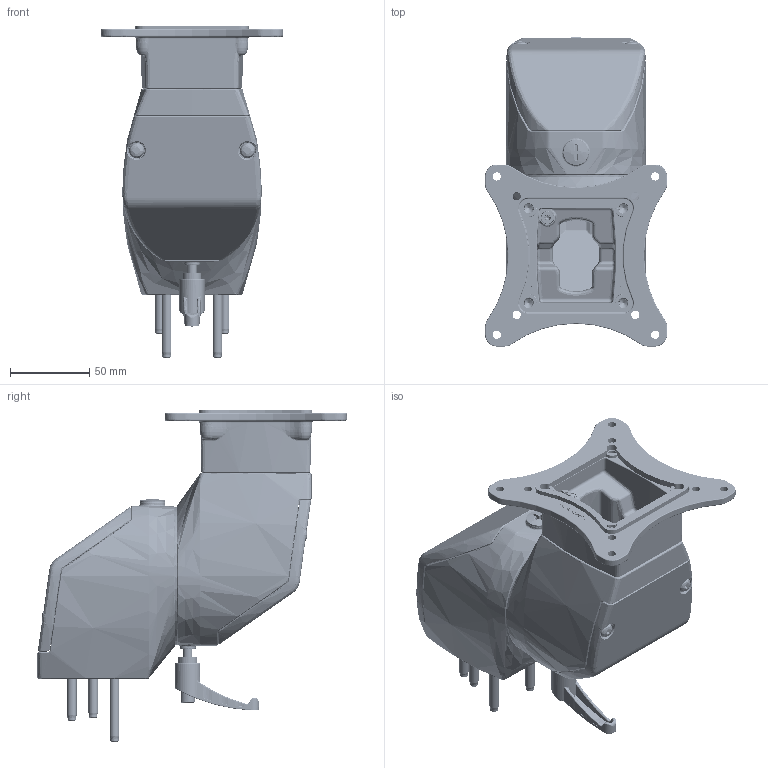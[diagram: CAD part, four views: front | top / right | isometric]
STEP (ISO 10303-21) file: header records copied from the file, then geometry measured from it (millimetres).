
FILE_DESCRIPTION((''),'2;1');
FILE_NAME('1015500013_ASM','2025-07-22T10:44:10',('Falk.Schoember'),(''),'CREO PARAMETRIC BY PTC INC, 2022124','CREO PARAMETRIC BY PTC INC, 2022124','');
FILE_SCHEMA(('AUTOMOTIVE_DESIGN { 1 0 10303 214 1 1 1 1 }'));
Products named in the file (47): 9324257000_AF0; EN_AC-47100-EN_AC-ALSI12CU_FE; 9261441000; 1_0402; 9620505000_ASM; 9641000005_ASM; 9371087000; POM_HOSTAFORM_C9021_GV1_10; 9324258000_AF0; 9620506000_ASM; 9641000006_ASM; 9231840000_AF5; NBR_70GR_SHORE_A; 9411111000_VG00290; CUSN6_HV_180_DIN_17670-1; 9371088000; 9502395000; 11SMNPB30; 9263051000; ST; 9432510000; PA66; 9231841000; NBR_ZELLKAUTSCHUK; 9324263000_AF0; 9620511000_ASM; 9641000011_ASM; 9261635000; 1_0037; 9324259000_AF0; GD_ALSI12_CU_LEG_231; 9620507000_ASM; 9641000007_ASM; 9261654000; NN; 9222005000; KRÜLIT_825_T; 9251096000; PA; 9231843000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
Assembly tree (44 placements, depth 4):
  EN_AC-47100-EN_AC-ALSI12CU_FE
  1_0402
  POM_HOSTAFORM_C9021_GV1_10
  EN_AC-47100-EN_AC-ALSI12CU_FE
  NBR_70GR_SHORE_A
Bounding box: 114.96 x 195.54 x 209.76 mm (x, y, z)
Volume: 705406.8 mm3; surface area: 261811.1 mm2
Topology: 37 solids, 37 shells, 6155 faces, 15707 edges, 9753 vertices
Faces by surface type: plane 2844, bspline 1599, cylinder 734, cone 489, torus 402, sphere 63, extrusion 12, revolution 12
Entity records: 272705 total; most frequent: CARTESIAN_POINT 100271, ORIENTED_EDGE 23184, DIRECTION 18280, PRESENTATION_STYLE_ASSIGNMENT 15721, STYLED_ITEM 15582, CURVE_STYLE 11616, EDGE_CURVE 11592, VERTEX_POINT 7183
